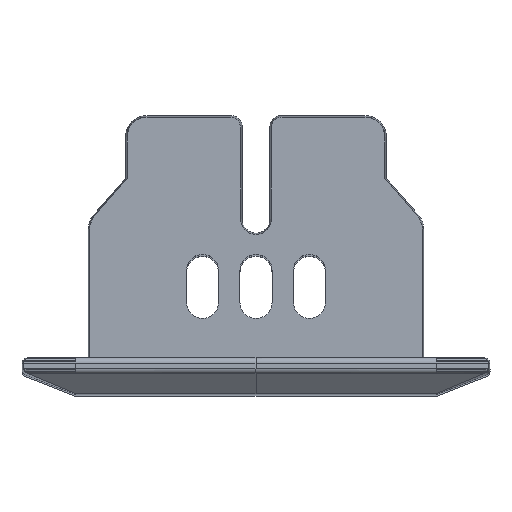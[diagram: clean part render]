
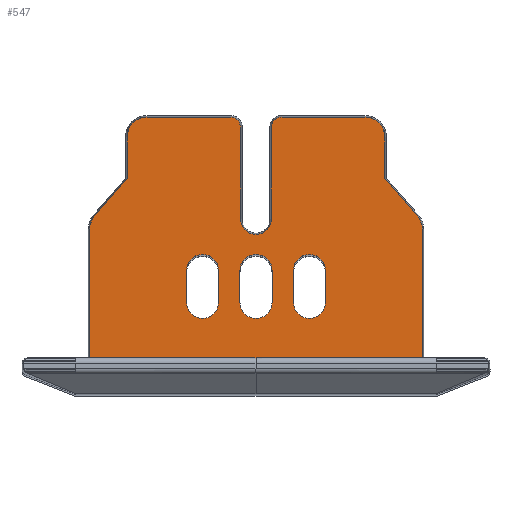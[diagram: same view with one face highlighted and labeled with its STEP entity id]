
A CAD part, top view. The second image highlights one B-rep face of the part: STEP entity #547.
In plain terms, the highlighted planar face has unit normal (0, 0, 1).
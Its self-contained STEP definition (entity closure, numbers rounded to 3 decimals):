
#395=ELLIPSE('',#4937,0.501,0.5);
#396=ELLIPSE('',#4939,0.501,0.5);
#461=FACE_BOUND('',#1224,.T.);
#462=FACE_BOUND('',#1225,.T.);
#463=FACE_BOUND('',#1226,.T.);
#464=FACE_BOUND('',#1227,.T.);
#488=CIRCLE('',#4938,0.72);
#489=CIRCLE('',#4940,0.93);
#490=CIRCLE('',#4941,0.93);
#491=CIRCLE('',#4942,0.93);
#492=CIRCLE('',#4943,0.93);
#493=CIRCLE('',#4944,0.75);
#494=CIRCLE('',#4945,0.75);
#495=CIRCLE('',#4946,0.75);
#496=CIRCLE('',#4947,0.75);
#497=CIRCLE('',#4948,0.75);
#498=CIRCLE('',#4949,0.75);
#547=ADVANCED_FACE('',(#461,#462,#463,#464),#825,.T.);
#825=PLANE('',#4950);
#1224=EDGE_LOOP('',(#1605,#1606,#1607,#1608,#1609,#1610,#1611,#1612,#1613,
#1614,#1615,#1616,#1617,#1618,#1619,#1620,#1621,#1622));
#1225=EDGE_LOOP('',(#1623,#1624,#1625,#1626));
#1226=EDGE_LOOP('',(#1627,#1628,#1629,#1630));
#1227=EDGE_LOOP('',(#1631,#1632,#1633,#1634));
#1605=ORIENTED_EDGE('',*,*,#3480,.F.);
#1606=ORIENTED_EDGE('',*,*,#3481,.T.);
#1607=ORIENTED_EDGE('',*,*,#3482,.F.);
#1608=ORIENTED_EDGE('',*,*,#3483,.T.);
#1609=ORIENTED_EDGE('',*,*,#3484,.T.);
#1610=ORIENTED_EDGE('',*,*,#3485,.T.);
#1611=ORIENTED_EDGE('',*,*,#3477,.F.);
#1612=ORIENTED_EDGE('',*,*,#3486,.T.);
#1613=ORIENTED_EDGE('',*,*,#3487,.F.);
#1614=ORIENTED_EDGE('',*,*,#3488,.F.);
#1615=ORIENTED_EDGE('',*,*,#3489,.T.);
#1616=ORIENTED_EDGE('',*,*,#3490,.F.);
#1617=ORIENTED_EDGE('',*,*,#3491,.F.);
#1618=ORIENTED_EDGE('',*,*,#3492,.F.);
#1619=ORIENTED_EDGE('',*,*,#3493,.T.);
#1620=ORIENTED_EDGE('',*,*,#3494,.F.);
#1621=ORIENTED_EDGE('',*,*,#3495,.F.);
#1622=ORIENTED_EDGE('',*,*,#3496,.T.);
#1623=ORIENTED_EDGE('',*,*,#3497,.F.);
#1624=ORIENTED_EDGE('',*,*,#3498,.F.);
#1625=ORIENTED_EDGE('',*,*,#3499,.F.);
#1626=ORIENTED_EDGE('',*,*,#3500,.T.);
#1627=ORIENTED_EDGE('',*,*,#3501,.F.);
#1628=ORIENTED_EDGE('',*,*,#3502,.F.);
#1629=ORIENTED_EDGE('',*,*,#3503,.F.);
#1630=ORIENTED_EDGE('',*,*,#3504,.T.);
#1631=ORIENTED_EDGE('',*,*,#3505,.T.);
#1632=ORIENTED_EDGE('',*,*,#3506,.T.);
#1633=ORIENTED_EDGE('',*,*,#3507,.F.);
#1634=ORIENTED_EDGE('',*,*,#3508,.T.);
#3029=VERTEX_POINT('',#6704);
#3030=VERTEX_POINT('',#6705);
#3031=VERTEX_POINT('',#6710);
#3032=VERTEX_POINT('',#6711);
#3033=VERTEX_POINT('',#6713);
#3034=VERTEX_POINT('',#6715);
#3035=VERTEX_POINT('',#6717);
#3036=VERTEX_POINT('',#6719);
#3037=VERTEX_POINT('',#6722);
#3038=VERTEX_POINT('',#6724);
#3039=VERTEX_POINT('',#6726);
#3040=VERTEX_POINT('',#6728);
#3041=VERTEX_POINT('',#6730);
#3042=VERTEX_POINT('',#6732);
#3043=VERTEX_POINT('',#6734);
#3044=VERTEX_POINT('',#6736);
#3045=VERTEX_POINT('',#6738);
#3046=VERTEX_POINT('',#6740);
#3047=VERTEX_POINT('',#6743);
#3048=VERTEX_POINT('',#6744);
#3049=VERTEX_POINT('',#6746);
#3050=VERTEX_POINT('',#6748);
#3051=VERTEX_POINT('',#6751);
#3052=VERTEX_POINT('',#6752);
#3053=VERTEX_POINT('',#6754);
#3054=VERTEX_POINT('',#6756);
#3055=VERTEX_POINT('',#6759);
#3056=VERTEX_POINT('',#6760);
#3057=VERTEX_POINT('',#6762);
#3058=VERTEX_POINT('',#6764);
#3477=EDGE_CURVE('',#3029,#3030,#4161,.T.);
#3480=EDGE_CURVE('',#3031,#3032,#4164,.T.);
#3481=EDGE_CURVE('',#3031,#3033,#395,.T.);
#3482=EDGE_CURVE('',#3034,#3033,#4165,.T.);
#3483=EDGE_CURVE('',#3034,#3035,#488,.T.);
#3484=EDGE_CURVE('',#3035,#3036,#4166,.T.);
#3485=EDGE_CURVE('',#3036,#3030,#396,.T.);
#3486=EDGE_CURVE('',#3029,#3037,#489,.T.);
#3487=EDGE_CURVE('',#3038,#3037,#4167,.T.);
#3488=EDGE_CURVE('',#3039,#3038,#4168,.T.);
#3489=EDGE_CURVE('',#3039,#3040,#490,.T.);
#3490=EDGE_CURVE('',#3041,#3040,#4169,.T.);
#3491=EDGE_CURVE('',#3042,#3041,#4170,.T.);
#3492=EDGE_CURVE('',#3043,#3042,#4171,.T.);
#3493=EDGE_CURVE('',#3043,#3044,#491,.T.);
#3494=EDGE_CURVE('',#3045,#3044,#4172,.T.);
#3495=EDGE_CURVE('',#3046,#3045,#4173,.T.);
#3496=EDGE_CURVE('',#3046,#3032,#492,.T.);
#3497=EDGE_CURVE('',#3047,#3048,#493,.T.);
#3498=EDGE_CURVE('',#3049,#3047,#4174,.T.);
#3499=EDGE_CURVE('',#3050,#3049,#494,.T.);
#3500=EDGE_CURVE('',#3050,#3048,#4175,.T.);
#3501=EDGE_CURVE('',#3051,#3052,#495,.T.);
#3502=EDGE_CURVE('',#3053,#3051,#4176,.T.);
#3503=EDGE_CURVE('',#3054,#3053,#496,.T.);
#3504=EDGE_CURVE('',#3054,#3052,#4177,.T.);
#3505=EDGE_CURVE('',#3055,#3056,#4178,.T.);
#3506=EDGE_CURVE('',#3056,#3057,#497,.T.);
#3507=EDGE_CURVE('',#3058,#3057,#4179,.T.);
#3508=EDGE_CURVE('',#3058,#3055,#498,.T.);
#4161=LINE('',#6703,#4563);
#4164=LINE('',#6709,#4566);
#4165=LINE('',#6714,#4567);
#4166=LINE('',#6718,#4568);
#4167=LINE('',#6723,#4569);
#4168=LINE('',#6725,#4570);
#4169=LINE('',#6729,#4571);
#4170=LINE('',#6731,#4572);
#4171=LINE('',#6733,#4573);
#4172=LINE('',#6737,#4574);
#4173=LINE('',#6739,#4575);
#4174=LINE('',#6745,#4576);
#4175=LINE('',#6749,#4577);
#4176=LINE('',#6753,#4578);
#4177=LINE('',#6757,#4579);
#4178=LINE('',#6758,#4580);
#4179=LINE('',#6763,#4581);
#4563=VECTOR('',#5414,1.);
#4566=VECTOR('',#5419,1.);
#4567=VECTOR('',#5422,1.);
#4568=VECTOR('',#5425,1.);
#4569=VECTOR('',#5430,1.);
#4570=VECTOR('',#5431,1.);
#4571=VECTOR('',#5434,1.);
#4572=VECTOR('',#5435,1.);
#4573=VECTOR('',#5436,1.);
#4574=VECTOR('',#5439,1.);
#4575=VECTOR('',#5440,1.);
#4576=VECTOR('',#5445,1.);
#4577=VECTOR('',#5448,1.);
#4578=VECTOR('',#5451,1.);
#4579=VECTOR('',#5454,1.);
#4580=VECTOR('',#5455,1.);
#4581=VECTOR('',#5458,1.);
#4937=AXIS2_PLACEMENT_3D('',#6712,#5420,#5421);
#4938=AXIS2_PLACEMENT_3D('',#6716,#5423,#5424);
#4939=AXIS2_PLACEMENT_3D('',#6720,#5426,#5427);
#4940=AXIS2_PLACEMENT_3D('',#6721,#5428,#5429);
#4941=AXIS2_PLACEMENT_3D('',#6727,#5432,#5433);
#4942=AXIS2_PLACEMENT_3D('',#6735,#5437,#5438);
#4943=AXIS2_PLACEMENT_3D('',#6741,#5441,#5442);
#4944=AXIS2_PLACEMENT_3D('',#6742,#5443,#5444);
#4945=AXIS2_PLACEMENT_3D('',#6747,#5446,#5447);
#4946=AXIS2_PLACEMENT_3D('',#6750,#5449,#5450);
#4947=AXIS2_PLACEMENT_3D('',#6755,#5452,#5453);
#4948=AXIS2_PLACEMENT_3D('',#6761,#5456,#5457);
#4949=AXIS2_PLACEMENT_3D('',#6765,#5459,#5460);
#4950=AXIS2_PLACEMENT_3D('',#6766,#5461,#5462);
#5414=DIRECTION('',(1.,0.,0.));
#5419=DIRECTION('',(1.,0.,0.));
#5420=DIRECTION('',(0.,0.,1.));
#5421=DIRECTION('',(0.707,-0.707,0.));
#5422=DIRECTION('',(0.,1.,0.));
#5423=DIRECTION('',(0.,0.,-1.));
#5424=DIRECTION('',(1.,0.,0.));
#5425=DIRECTION('',(0.,1.,0.));
#5426=DIRECTION('',(0.,0.,1.));
#5427=DIRECTION('',(-0.707,-0.707,0.));
#5428=DIRECTION('',(0.,0.,1.));
#5429=DIRECTION('',(1.,0.,0.));
#5430=DIRECTION('',(0.,1.,0.));
#5431=DIRECTION('',(0.659,0.753,0.));
#5432=DIRECTION('',(0.,0.,1.));
#5433=DIRECTION('',(1.,0.,0.));
#5434=DIRECTION('',(0.,1.,0.));
#5435=DIRECTION('',(-1.,0.,0.));
#5436=DIRECTION('',(0.,-1.,0.));
#5437=DIRECTION('',(0.,0.,1.));
#5438=DIRECTION('',(1.,0.,0.));
#5439=DIRECTION('',(0.659,-0.753,0.));
#5440=DIRECTION('',(0.,-1.,0.));
#5441=DIRECTION('',(0.,0.,1.));
#5442=DIRECTION('',(1.,0.,0.));
#5443=DIRECTION('',(0.,0.,1.));
#5444=DIRECTION('',(1.,0.,0.));
#5445=DIRECTION('',(0.,-1.,0.));
#5446=DIRECTION('',(0.,0.,1.));
#5447=DIRECTION('',(1.,0.,0.));
#5448=DIRECTION('',(0.,-1.,0.));
#5449=DIRECTION('',(0.,0.,1.));
#5450=DIRECTION('',(1.,0.,0.));
#5451=DIRECTION('',(0.,-1.,0.));
#5452=DIRECTION('',(0.,0.,1.));
#5453=DIRECTION('',(1.,0.,0.));
#5454=DIRECTION('',(0.,-1.,0.));
#5455=DIRECTION('',(0.,1.,0.));
#5456=DIRECTION('',(0.,0.,-1.));
#5457=DIRECTION('',(1.,0.,0.));
#5458=DIRECTION('',(0.,1.,0.));
#5459=DIRECTION('',(0.,0.,-1.));
#5460=DIRECTION('',(1.,0.,0.));
#5461=DIRECTION('',(0.,0.,1.));
#5462=DIRECTION('',(-1.,0.,0.));
#6703=CARTESIAN_POINT('',(-5.1,-0.17,2.));
#6704=CARTESIAN_POINT('',(-5.1,-0.17,2.));
#6705=CARTESIAN_POINT('',(-1.22,-0.17,2.));
#6709=CARTESIAN_POINT('',(0.49,-0.17,2.));
#6710=CARTESIAN_POINT('',(1.22,-0.17,2.));
#6711=CARTESIAN_POINT('',(5.1,-0.17,2.));
#6712=CARTESIAN_POINT('',(1.22,-0.67,2.));
#6713=CARTESIAN_POINT('',(0.72,-0.67,2.));
#6714=CARTESIAN_POINT('',(0.72,-1.1,2.));
#6715=CARTESIAN_POINT('',(0.72,-4.95,2.));
#6716=CARTESIAN_POINT('',(0.,-4.95,2.));
#6717=CARTESIAN_POINT('',(-0.72,-4.95,2.));
#6718=CARTESIAN_POINT('',(-0.72,-1.1,2.));
#6719=CARTESIAN_POINT('',(-0.72,-0.67,2.));
#6720=CARTESIAN_POINT('',(-1.22,-0.67,2.));
#6721=CARTESIAN_POINT('',(-5.1,-1.1,2.));
#6722=CARTESIAN_POINT('',(-6.03,-1.1,2.));
#6723=CARTESIAN_POINT('',(-6.03,-3.038,2.));
#6724=CARTESIAN_POINT('',(-6.03,-3.064,2.));
#6725=CARTESIAN_POINT('',(-7.55,-4.801,2.));
#6726=CARTESIAN_POINT('',(-7.55,-4.801,2.));
#6727=CARTESIAN_POINT('',(-6.85,-5.413,2.));
#6728=CARTESIAN_POINT('',(-7.78,-5.413,2.));
#6729=CARTESIAN_POINT('',(-7.78,-11.75,2.));
#6730=CARTESIAN_POINT('',(-7.78,-11.45,2.));
#6731=CARTESIAN_POINT('',(5.1,-11.45,2.));
#6732=CARTESIAN_POINT('',(7.78,-11.45,2.));
#6733=CARTESIAN_POINT('',(7.78,-5.413,2.));
#6734=CARTESIAN_POINT('',(7.78,-5.413,2.));
#6735=CARTESIAN_POINT('',(6.85,-5.413,2.));
#6736=CARTESIAN_POINT('',(7.55,-4.801,2.));
#6737=CARTESIAN_POINT('',(6.048,-3.084,2.));
#6738=CARTESIAN_POINT('',(6.03,-3.064,2.));
#6739=CARTESIAN_POINT('',(6.03,-1.1,2.));
#6740=CARTESIAN_POINT('',(6.03,-1.1,2.));
#6741=CARTESIAN_POINT('',(5.1,-1.1,2.));
#6742=CARTESIAN_POINT('',(2.5,-8.85,2.));
#6743=CARTESIAN_POINT('',(1.75,-8.85,2.));
#6744=CARTESIAN_POINT('',(3.25,-8.85,2.));
#6745=CARTESIAN_POINT('',(1.75,-1.1,2.));
#6746=CARTESIAN_POINT('',(1.75,-7.35,2.));
#6747=CARTESIAN_POINT('',(2.5,-7.35,2.));
#6748=CARTESIAN_POINT('',(3.25,-7.35,2.));
#6749=CARTESIAN_POINT('',(3.25,-1.1,2.));
#6750=CARTESIAN_POINT('',(-2.5,-8.85,2.));
#6751=CARTESIAN_POINT('',(-3.25,-8.85,2.));
#6752=CARTESIAN_POINT('',(-1.75,-8.85,2.));
#6753=CARTESIAN_POINT('',(-3.25,-1.1,2.));
#6754=CARTESIAN_POINT('',(-3.25,-7.35,2.));
#6755=CARTESIAN_POINT('',(-2.5,-7.35,2.));
#6756=CARTESIAN_POINT('',(-1.75,-7.35,2.));
#6757=CARTESIAN_POINT('',(-1.75,-1.1,2.));
#6758=CARTESIAN_POINT('',(-0.75,-1.1,2.));
#6759=CARTESIAN_POINT('',(-0.75,-8.85,2.));
#6760=CARTESIAN_POINT('',(-0.75,-7.35,2.));
#6761=CARTESIAN_POINT('',(0.,-7.35,2.));
#6762=CARTESIAN_POINT('',(0.75,-7.35,2.));
#6763=CARTESIAN_POINT('',(0.75,-1.1,2.));
#6764=CARTESIAN_POINT('',(0.75,-8.85,2.));
#6765=CARTESIAN_POINT('',(0.,-8.85,2.));
#6766=CARTESIAN_POINT('',(5.1,-1.1,2.));
